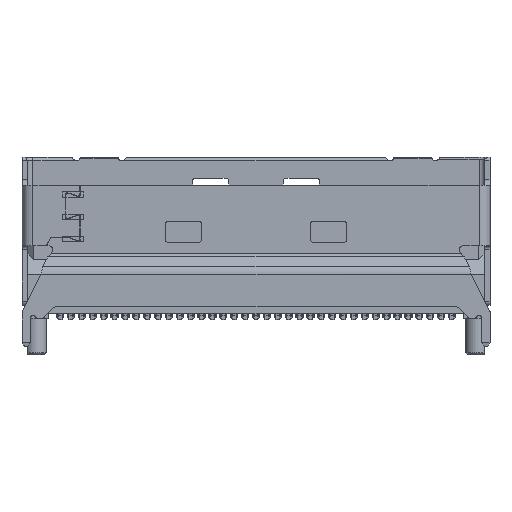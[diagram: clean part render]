
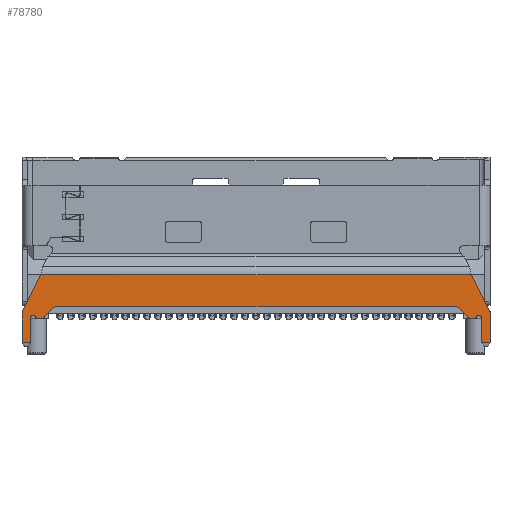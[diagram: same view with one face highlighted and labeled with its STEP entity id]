
A CAD part, top view. The second image highlights one B-rep face of the part: STEP entity #78780.
In plain terms, the highlighted planar face has unit normal (0, 0, 1).
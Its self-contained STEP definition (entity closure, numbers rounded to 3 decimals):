
#4835=CARTESIAN_POINT('',(-12.032,-1.5,2.3));
#4836=DIRECTION('',(0.,0.,1.));
#4837=DIRECTION('',(-0.893,-0.45,0.));
#4838=AXIS2_PLACEMENT_3D('',#4835,#4836,#4837);
#4840=CARTESIAN_POINT('',(-12.3,-1.635,2.3));
#4841=DIRECTION('',(0.,0.,-1.));
#4842=DIRECTION('',(-1.,0.,0.));
#4843=AXIS2_PLACEMENT_3D('',#4840,#4841,#4842);
#4845=DIRECTION('',(-0.442,-0.897,0.));
#4846=VECTOR('',#4845,2.353);
#4847=CARTESIAN_POINT('',(-11.861,0.771,
2.3));
#4848=LINE('',#4847,#4846);
#4849=DIRECTION('',(-0.442,0.897,0.));
#4850=VECTOR('',#4849,2.353);
#4851=CARTESIAN_POINT('',(12.9,-1.34,2.3));
#4852=LINE('',#4851,#4850);
#4853=CARTESIAN_POINT('',(12.3,-1.635,2.3));
#4854=DIRECTION('',(0.,0.,-1.));
#4855=DIRECTION('',(-0.893,0.45,0.));
#4856=AXIS2_PLACEMENT_3D('',#4853,#4854,#4855);
#4858=CARTESIAN_POINT('',(12.032,-1.5,2.3));
#4859=DIRECTION('',(0.,0.,1.));
#4860=DIRECTION('',(0.,-1.,0.));
#4861=AXIS2_PLACEMENT_3D('',#4858,#4859,#4860);
#4863=CARTESIAN_POINT('',(11.866,-1.35,2.3));
#4864=DIRECTION('',(0.,0.,1.));
#4865=DIRECTION('',(-0.719,-0.695,0.));
#4866=AXIS2_PLACEMENT_3D('',#4863,#4864,#4865);
#4868=DIRECTION('',(0.695,-0.719,0.));
#4869=VECTOR('',#4868,0.649);
#4870=CARTESIAN_POINT('',(11.199,-1.092,2.3));
#4871=LINE('',#4870,#4869);
#4872=CARTESIAN_POINT('',(10.983,-1.3,2.3));
#4873=DIRECTION('',(0.,0.,-1.));
#4874=DIRECTION('',(0.,1.,0.));
#4875=AXIS2_PLACEMENT_3D('',#4872,#4873,#4874);
#4877=CARTESIAN_POINT('',(-10.983,-1.3,2.3));
#4878=DIRECTION('',(0.,0.,-1.));
#4879=DIRECTION('',(-0.719,0.695,0.));
#4880=AXIS2_PLACEMENT_3D('',#4877,#4878,#4879);
#4882=DIRECTION('',(0.695,0.719,0.));
#4883=VECTOR('',#4882,0.649);
#4884=CARTESIAN_POINT('',(-11.65,-1.558,2.3));
#4885=LINE('',#4884,#4883);
#4886=CARTESIAN_POINT('',(-11.866,-1.35,2.3));
#4887=DIRECTION('',(0.,0.,1.));
#4888=DIRECTION('',(0.,-1.,0.));
#4889=AXIS2_PLACEMENT_3D('',#4886,#4887,#4888);
#4901=DIRECTION('',(1.,0.,0.));
#4902=VECTOR('',#4901,0.166);
#4903=CARTESIAN_POINT('',(-12.032,-1.65,2.3));
#4904=LINE('',#4903,#4902);
#4921=DIRECTION('',(1.,0.,0.));
#4922=VECTOR('',#4921,21.967);
#4923=CARTESIAN_POINT('',(-10.983,-1.,2.3));
#4924=LINE('',#4923,#4922);
#7030=DIRECTION('',(0.,-1.,0.));
#7031=VECTOR('',#7030,1.645);
#7032=CARTESIAN_POINT('',(-12.9,-1.34,2.3));
#7033=LINE('',#7032,#7031);
#7084=DIRECTION('',(-1.,0.,0.));
#7085=VECTOR('',#7084,0.45);
#7086=CARTESIAN_POINT('',(-12.45,-2.985,2.3));
#7087=LINE('',#7086,#7085);
#7118=DIRECTION('',(0.,-1.,0.));
#7119=VECTOR('',#7118,1.35);
#7120=CARTESIAN_POINT('',(-12.45,-1.635,2.3));
#7121=LINE('',#7120,#7119);
#7200=DIRECTION('',(1.,0.,0.));
#7201=VECTOR('',#7200,0.166);
#7202=CARTESIAN_POINT('',(11.866,-1.65,2.3));
#7203=LINE('',#7202,#7201);
#7220=DIRECTION('',(0.,-1.,0.));
#7221=VECTOR('',#7220,1.35);
#7222=CARTESIAN_POINT('',(12.45,-1.635,2.3));
#7223=LINE('',#7222,#7221);
#7284=DIRECTION('',(-1.,0.,0.));
#7285=VECTOR('',#7284,0.45);
#7286=CARTESIAN_POINT('',(12.9,-2.985,2.3));
#7287=LINE('',#7286,#7285);
#7304=DIRECTION('',(0.,-1.,0.));
#7305=VECTOR('',#7304,1.645);
#7306=CARTESIAN_POINT('',(12.9,-1.34,2.3));
#7307=LINE('',#7306,#7305);
#7327=DIRECTION('',(-1.,0.,0.));
#7328=VECTOR('',#7327,23.723);
#7329=CARTESIAN_POINT('',(11.861,0.771,2.3));
#7330=LINE('',#7329,#7328);
#7331=CARTESIAN_POINT('',(-11.861,0.771,
2.3));
#57303=CARTESIAN_POINT('',(11.861,0.771,
2.3));
#57305=VERTEX_POINT('',#57303);
#58077=VERTEX_POINT('',#7331);
#58082=CARTESIAN_POINT('',(-12.9,-1.34,2.3));
#58083=VERTEX_POINT('',#58082);
#58084=CARTESIAN_POINT('',(-12.166,-1.567,2.3));
#58085=CARTESIAN_POINT('',(-12.032,-1.65,2.3));
#58086=VERTEX_POINT('',#58084);
#58087=VERTEX_POINT('',#58085);
#58088=CARTESIAN_POINT('',(-12.45,-1.635,2.3));
#58089=VERTEX_POINT('',#58088);
#58090=CARTESIAN_POINT('',(-12.45,-2.985,2.3));
#58091=VERTEX_POINT('',#58090);
#58092=CARTESIAN_POINT('',(-12.9,-2.985,2.3));
#58093=VERTEX_POINT('',#58092);
#58094=CARTESIAN_POINT('',(12.9,-1.34,2.3));
#58095=VERTEX_POINT('',#58094);
#58096=CARTESIAN_POINT('',(12.9,-2.985,2.3));
#58097=VERTEX_POINT('',#58096);
#58098=CARTESIAN_POINT('',(12.45,-2.985,2.3));
#58099=VERTEX_POINT('',#58098);
#58100=CARTESIAN_POINT('',(12.45,-1.635,2.3));
#58101=VERTEX_POINT('',#58100);
#58102=CARTESIAN_POINT('',(12.166,-1.567,2.3));
#58103=VERTEX_POINT('',#58102);
#58104=CARTESIAN_POINT('',(12.032,-1.65,2.3));
#58105=VERTEX_POINT('',#58104);
#58106=CARTESIAN_POINT('',(11.866,-1.65,2.3));
#58107=VERTEX_POINT('',#58106);
#58108=CARTESIAN_POINT('',(11.65,-1.558,2.3));
#58109=VERTEX_POINT('',#58108);
#58110=CARTESIAN_POINT('',(11.199,-1.092,2.3));
#58111=VERTEX_POINT('',#58110);
#58112=CARTESIAN_POINT('',(10.983,-1.,2.3));
#58113=VERTEX_POINT('',#58112);
#58114=CARTESIAN_POINT('',(-10.983,-1.,2.3));
#58115=VERTEX_POINT('',#58114);
#58116=CARTESIAN_POINT('',(-11.199,-1.092,2.3));
#58117=VERTEX_POINT('',#58116);
#58118=CARTESIAN_POINT('',(-11.65,-1.558,2.3));
#58119=VERTEX_POINT('',#58118);
#58120=CARTESIAN_POINT('',(-11.866,-1.65,2.3));
#58121=VERTEX_POINT('',#58120);
#78730=CARTESIAN_POINT('',(0.,-1.107,2.3));
#78731=DIRECTION('',(0.,0.,1.));
#78732=DIRECTION('',(0.,-1.,0.));
#78733=AXIS2_PLACEMENT_3D('',#78730,#78731,#78732);
#78734=PLANE('',#78733);
#78736=ORIENTED_EDGE('',*,*,#78735,.F.);
#78738=ORIENTED_EDGE('',*,*,#78737,.F.);
#78740=ORIENTED_EDGE('',*,*,#78739,.T.);
#78742=ORIENTED_EDGE('',*,*,#78741,.T.);
#78744=ORIENTED_EDGE('',*,*,#78743,.F.);
#78745=ORIENTED_EDGE('',*,*,#78714,.F.);
#78747=ORIENTED_EDGE('',*,*,#78746,.F.);
#78749=ORIENTED_EDGE('',*,*,#78748,.F.);
#78751=ORIENTED_EDGE('',*,*,#78750,.T.);
#78753=ORIENTED_EDGE('',*,*,#78752,.T.);
#78755=ORIENTED_EDGE('',*,*,#78754,.F.);
#78757=ORIENTED_EDGE('',*,*,#78756,.F.);
#78759=ORIENTED_EDGE('',*,*,#78758,.F.);
#78761=ORIENTED_EDGE('',*,*,#78760,.F.);
#78763=ORIENTED_EDGE('',*,*,#78762,.F.);
#78765=ORIENTED_EDGE('',*,*,#78764,.F.);
#78767=ORIENTED_EDGE('',*,*,#78766,.F.);
#78769=ORIENTED_EDGE('',*,*,#78768,.F.);
#78771=ORIENTED_EDGE('',*,*,#78770,.F.);
#78773=ORIENTED_EDGE('',*,*,#78772,.F.);
#78775=ORIENTED_EDGE('',*,*,#78774,.F.);
#78777=ORIENTED_EDGE('',*,*,#78776,.F.);
#78778=EDGE_LOOP('',(#78736,#78738,#78740,#78742,#78744,#78745,#78747,#78749,
#78751,#78753,#78755,#78757,#78759,#78761,#78763,#78765,#78767,#78769,#78771,
#78773,#78775,#78777));
#78779=FACE_OUTER_BOUND('',#78778,.F.);
#4839=CIRCLE('',#4838,0.15);
#4844=CIRCLE('',#4843,0.15);
#4857=CIRCLE('',#4856,0.15);
#4862=CIRCLE('',#4861,0.15);
#4867=CIRCLE('',#4866,0.3);
#4876=CIRCLE('',#4875,0.3);
#4881=CIRCLE('',#4880,0.3);
#4890=CIRCLE('',#4889,0.3);
#78714=EDGE_CURVE('',#58077,#58083,#4848,.T.);
#78735=EDGE_CURVE('',#58086,#58087,#4839,.T.);
#78737=EDGE_CURVE('',#58089,#58086,#4844,.T.);
#78739=EDGE_CURVE('',#58089,#58091,#7121,.T.);
#78741=EDGE_CURVE('',#58091,#58093,#7087,.T.);
#78743=EDGE_CURVE('',#58083,#58093,#7033,.T.);
#78746=EDGE_CURVE('',#57305,#58077,#7330,.T.);
#78748=EDGE_CURVE('',#58095,#57305,#4852,.T.);
#78750=EDGE_CURVE('',#58095,#58097,#7307,.T.);
#78752=EDGE_CURVE('',#58097,#58099,#7287,.T.);
#78754=EDGE_CURVE('',#58101,#58099,#7223,.T.);
#78756=EDGE_CURVE('',#58103,#58101,#4857,.T.);
#78758=EDGE_CURVE('',#58105,#58103,#4862,.T.);
#78760=EDGE_CURVE('',#58107,#58105,#7203,.T.);
#78762=EDGE_CURVE('',#58109,#58107,#4867,.T.);
#78764=EDGE_CURVE('',#58111,#58109,#4871,.T.);
#78766=EDGE_CURVE('',#58113,#58111,#4876,.T.);
#78768=EDGE_CURVE('',#58115,#58113,#4924,.T.);
#78770=EDGE_CURVE('',#58117,#58115,#4881,.T.);
#78772=EDGE_CURVE('',#58119,#58117,#4885,.T.);
#78774=EDGE_CURVE('',#58121,#58119,#4890,.T.);
#78776=EDGE_CURVE('',#58087,#58121,#4904,.T.);
#78780=ADVANCED_FACE('',(#78779),#78734,.T.);
